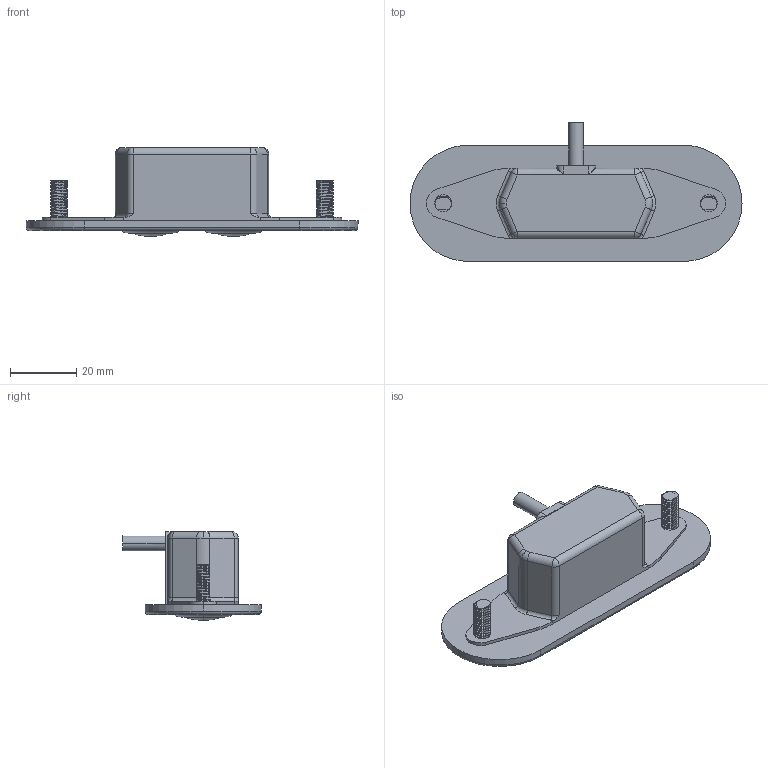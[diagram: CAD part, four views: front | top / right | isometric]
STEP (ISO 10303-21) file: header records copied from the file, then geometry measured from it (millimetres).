
FILE_DESCRIPTION (( 'STEP AP203' ), '1' );
FILE_NAME ('TH15.STEP', '2011-09-20T03:24:58', ( '' ), ( '' ), 'SwSTEP 2.0', 'SolidWorks 2010', '' );
FILE_SCHEMA (( 'CONFIG_CONTROL_DESIGN' ));
Length unit declared in the file: millimetre
Products named in the file (1): TH15
Bounding box: 100 x 41.8 x 26.8 mm (x, y, z)
Volume: 30380.9 mm3; surface area: 11384.3 mm2
Topology: 1 solids, 1 shells, 296 faces, 802 edges, 511 vertices
Faces by surface type: cylinder 146, plane 100, torus 34, sphere 8, bspline 8
Entity records: 26825 total; most frequent: CARTESIAN_POINT 19991, ORIENTED_EDGE 1592, DIRECTION 1253, EDGE_CURVE 796, VERTEX_POINT 511, AXIS2_PLACEMENT_3D 477, EDGE_LOOP 305, LINE 299
